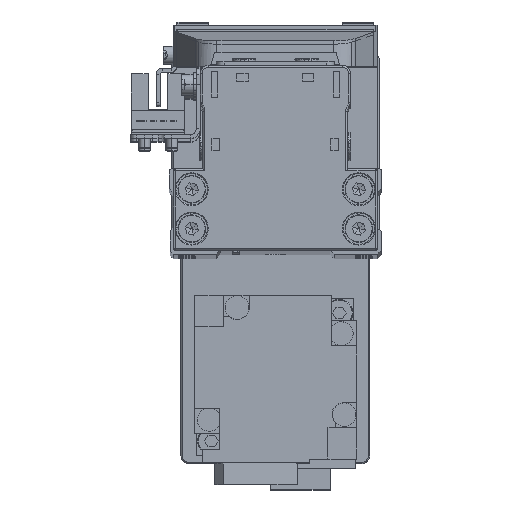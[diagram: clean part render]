
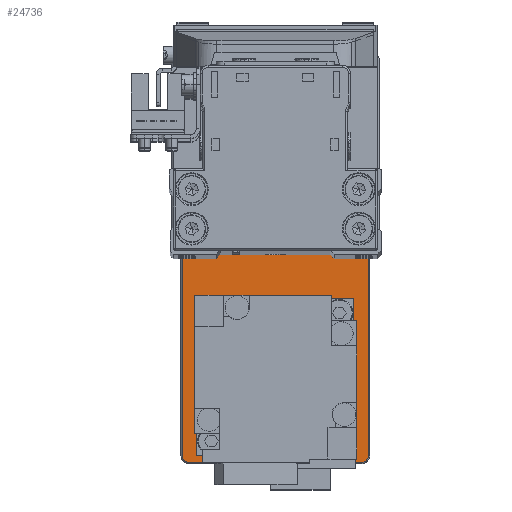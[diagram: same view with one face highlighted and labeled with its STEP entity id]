
A CAD part, top view. The second image highlights one B-rep face of the part: STEP entity #24736.
In plain terms, the highlighted planar face has unit normal (0, 0, 1).
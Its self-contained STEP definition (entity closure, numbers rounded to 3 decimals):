
#49 = FACE_BOUND ( 'NONE', #18296, .T. ) ;
#103 = DIRECTION ( 'NONE',  ( 1., 0., 0. ) ) ;
#1365 = VERTEX_POINT ( 'NONE', #5236 ) ;
#1441 = EDGE_LOOP ( 'NONE', ( #3762, #27047 ) ) ;
#1573 = VERTEX_POINT ( 'NONE', #6639 ) ;
#2363 = AXIS2_PLACEMENT_3D ( 'NONE', #8458, #20869, #33265 ) ;
#2532 = CIRCLE ( 'NONE', #25278, 10.3 ) ;
#2982 = CARTESIAN_POINT ( 'NONE',  ( -51.7, -22., 5. ) ) ;
#3165 = LINE ( 'NONE', #15555, #3660 ) ;
#3660 = VECTOR ( 'NONE', #27990, 1000. ) ;
#3762 = ORIENTED_EDGE ( 'NONE', *, *, #13323, .T. ) ;
#4168 = CARTESIAN_POINT ( 'NONE',  ( -28., 0., 5. ) ) ;
#4250 = LINE ( 'NONE', #16637, #8842 ) ;
#4532 = VERTEX_POINT ( 'NONE', #17134 ) ;
#4539 = DIRECTION ( 'NONE',  ( 0., 1., 0. ) ) ;
#5236 = CARTESIAN_POINT ( 'NONE',  ( -17.7, 0., 5. ) ) ;
#5356 = DIRECTION ( 'NONE',  ( 1., 0., 0. ) ) ;
#5483 = ORIENTED_EDGE ( 'NONE', *, *, #19347, .T. ) ;
#5535 = VECTOR ( 'NONE', #4539, 1000. ) ;
#6213 = ORIENTED_EDGE ( 'NONE', *, *, #21278, .T. ) ;
#6639 = CARTESIAN_POINT ( 'NONE',  ( 42.8, 0., 5. ) ) ;
#6765 = CARTESIAN_POINT ( 'NONE',  ( -38.3, 0., 5. ) ) ;
#7223 = VERTEX_POINT ( 'NONE', #39426 ) ;
#7888 = EDGE_CURVE ( 'NONE', #12585, #20514, #11813, .T. ) ;
#8458 = CARTESIAN_POINT ( 'NONE',  ( 30., 0., 5. ) ) ;
#8842 = VECTOR ( 'NONE', #29074, 1000. ) ;
#9356 = DIRECTION ( 'NONE',  ( 0., 0., 1. ) ) ;
#10348 = AXIS2_PLACEMENT_3D ( 'NONE', #38427, #10558, #22990 ) ;
#10558 = DIRECTION ( 'NONE',  ( 0., 0., -1. ) ) ;
#11006 = CARTESIAN_POINT ( 'NONE',  ( -50., 22., 5. ) ) ;
#11064 = CIRCLE ( 'NONE', #33800, 1.7 ) ;
#11740 = ORIENTED_EDGE ( 'NONE', *, *, #12397, .T. ) ;
#11813 = CIRCLE ( 'NONE', #34563, 1.7 ) ;
#11853 = VERTEX_POINT ( 'NONE', #18859 ) ;
#12099 = DIRECTION ( 'NONE',  ( 0., 0., 1. ) ) ;
#12178 = DIRECTION ( 'NONE',  ( 0., -1., 0. ) ) ;
#12397 = EDGE_CURVE ( 'NONE', #15498, #1365, #22664, .T. ) ;
#12408 = FACE_OUTER_BOUND ( 'NONE', #16518, .T. ) ;
#12573 = EDGE_CURVE ( 'NONE', #1365, #15498, #2532, .T. ) ;
#12585 = VERTEX_POINT ( 'NONE', #33403 ) ;
#13323 = EDGE_CURVE ( 'NONE', #1573, #39932, #27923, .T. ) ;
#13607 = CARTESIAN_POINT ( 'NONE',  ( 50., 22., 5. ) ) ;
#14213 = ORIENTED_EDGE ( 'NONE', *, *, #16082, .T. ) ;
#15365 = AXIS2_PLACEMENT_3D ( 'NONE', #15519, #27961, #103 ) ;
#15498 = VERTEX_POINT ( 'NONE', #6765 ) ;
#15519 = CARTESIAN_POINT ( 'NONE',  ( -50., -22., 5. ) ) ;
#15555 = CARTESIAN_POINT ( 'NONE',  ( -50., 23.7, 5. ) ) ;
#16082 = EDGE_CURVE ( 'NONE', #7223, #29849, #11064, .T. ) ;
#16518 = EDGE_LOOP ( 'NONE', ( #28268, #5483, #6213, #14213, #37646, #38563, #24661, #20477 ) ) ;
#16553 = DIRECTION ( 'NONE',  ( 0., 0., -1. ) ) ;
#16637 = CARTESIAN_POINT ( 'NONE',  ( 50., -23.7, 5. ) ) ;
#17134 = CARTESIAN_POINT ( 'NONE',  ( -50., -23.7, 5. ) ) ;
#17982 = CARTESIAN_POINT ( 'NONE',  ( 51.7, -22., 5. ) ) ;
#18296 = EDGE_LOOP ( 'NONE', ( #25843, #11740 ) ) ;
#18859 = CARTESIAN_POINT ( 'NONE',  ( 50., -23.7, 5. ) ) ;
#19347 = EDGE_CURVE ( 'NONE', #11853, #31078, #39193, .T. ) ;
#19891 = CIRCLE ( 'NONE', #2363, 12.8 ) ;
#19988 = LINE ( 'NONE', #32386, #5535 ) ;
#20477 = ORIENTED_EDGE ( 'NONE', *, *, #34523, .T. ) ;
#20514 = VERTEX_POINT ( 'NONE', #26802 ) ;
#20823 = CARTESIAN_POINT ( 'NONE',  ( -28., 0., 5. ) ) ;
#20869 = DIRECTION ( 'NONE',  ( 0., 0., -1. ) ) ;
#21278 = EDGE_CURVE ( 'NONE', #31078, #7223, #19988, .T. ) ;
#21679 = AXIS2_PLACEMENT_3D ( 'NONE', #39978, #12099, #24548 ) ;
#21783 = DIRECTION ( 'NONE',  ( 1., 0., 0. ) ) ;
#22664 = CIRCLE ( 'NONE', #27863, 10.3 ) ;
#22990 = DIRECTION ( 'NONE',  ( 1., 0., 0. ) ) ;
#23445 = DIRECTION ( 'NONE',  ( 0., 0., 1. ) ) ;
#23677 = EDGE_CURVE ( 'NONE', #39932, #1573, #19891, .T. ) ;
#24548 = DIRECTION ( 'NONE',  ( 1., 0., 0. ) ) ;
#24661 = ORIENTED_EDGE ( 'NONE', *, *, #30206, .T. ) ;
#24736 = ADVANCED_FACE ( 'NONE', ( #27905, #49, #12408 ), #24853, .T. ) ;
#24853 = PLANE ( 'NONE',  #33724 ) ;
#25278 = AXIS2_PLACEMENT_3D ( 'NONE', #20823, #33212, #5356 ) ;
#25843 = ORIENTED_EDGE ( 'NONE', *, *, #12573, .T. ) ;
#26055 = DIRECTION ( 'NONE',  ( 0., 0., 1. ) ) ;
#26541 = CARTESIAN_POINT ( 'NONE',  ( 17.2, 0., 5. ) ) ;
#26802 = CARTESIAN_POINT ( 'NONE',  ( -51.7, 22., 5. ) ) ;
#27047 = ORIENTED_EDGE ( 'NONE', *, *, #23677, .T. ) ;
#27168 = CARTESIAN_POINT ( 'NONE',  ( 50., 23.7, 5. ) ) ;
#27660 = LINE ( 'NONE', #40056, #39876 ) ;
#27863 = AXIS2_PLACEMENT_3D ( 'NONE', #4168, #16553, #28989 ) ;
#27905 = FACE_BOUND ( 'NONE', #1441, .T. ) ;
#27923 = CIRCLE ( 'NONE', #10348, 12.8 ) ;
#27961 = DIRECTION ( 'NONE',  ( 0., 0., 1. ) ) ;
#27990 = DIRECTION ( 'NONE',  ( -1., 0., 0. ) ) ;
#28268 = ORIENTED_EDGE ( 'NONE', *, *, #37684, .T. ) ;
#28989 = DIRECTION ( 'NONE',  ( 1., 0., 0. ) ) ;
#29074 = DIRECTION ( 'NONE',  ( 1., 0., 0. ) ) ;
#29849 = VERTEX_POINT ( 'NONE', #27168 ) ;
#30206 = EDGE_CURVE ( 'NONE', #20514, #35343, #27660, .T. ) ;
#31078 = VERTEX_POINT ( 'NONE', #17982 ) ;
#32386 = CARTESIAN_POINT ( 'NONE',  ( 51.7, 22., 5. ) ) ;
#32432 = EDGE_CURVE ( 'NONE', #29849, #12585, #3165, .T. ) ;
#32897 = CIRCLE ( 'NONE', #15365, 1.7 ) ;
#33212 = DIRECTION ( 'NONE',  ( 0., 0., -1. ) ) ;
#33265 = DIRECTION ( 'NONE',  ( 1., 0., 0. ) ) ;
#33403 = CARTESIAN_POINT ( 'NONE',  ( -50., 23.7, 5. ) ) ;
#33724 = AXIS2_PLACEMENT_3D ( 'NONE', #37228, #9356, #21783 ) ;
#33800 = AXIS2_PLACEMENT_3D ( 'NONE', #13607, #26055, #38428 ) ;
#34523 = EDGE_CURVE ( 'NONE', #35343, #4532, #32897, .T. ) ;
#34563 = AXIS2_PLACEMENT_3D ( 'NONE', #11006, #23445, #35823 ) ;
#35343 = VERTEX_POINT ( 'NONE', #2982 ) ;
#35823 = DIRECTION ( 'NONE',  ( 1., 0., 0. ) ) ;
#37228 = CARTESIAN_POINT ( 'NONE',  ( 0., 0., 5. ) ) ;
#37646 = ORIENTED_EDGE ( 'NONE', *, *, #32432, .T. ) ;
#37684 = EDGE_CURVE ( 'NONE', #4532, #11853, #4250, .T. ) ;
#38427 = CARTESIAN_POINT ( 'NONE',  ( 30., 0., 5. ) ) ;
#38428 = DIRECTION ( 'NONE',  ( 1., 0., 0. ) ) ;
#38563 = ORIENTED_EDGE ( 'NONE', *, *, #7888, .T. ) ;
#39193 = CIRCLE ( 'NONE', #21679, 1.7 ) ;
#39426 = CARTESIAN_POINT ( 'NONE',  ( 51.7, 22., 5. ) ) ;
#39876 = VECTOR ( 'NONE', #12178, 1000. ) ;
#39932 = VERTEX_POINT ( 'NONE', #26541 ) ;
#39978 = CARTESIAN_POINT ( 'NONE',  ( 50., -22., 5. ) ) ;
#40056 = CARTESIAN_POINT ( 'NONE',  ( -51.7, -22., 5. ) ) ;
